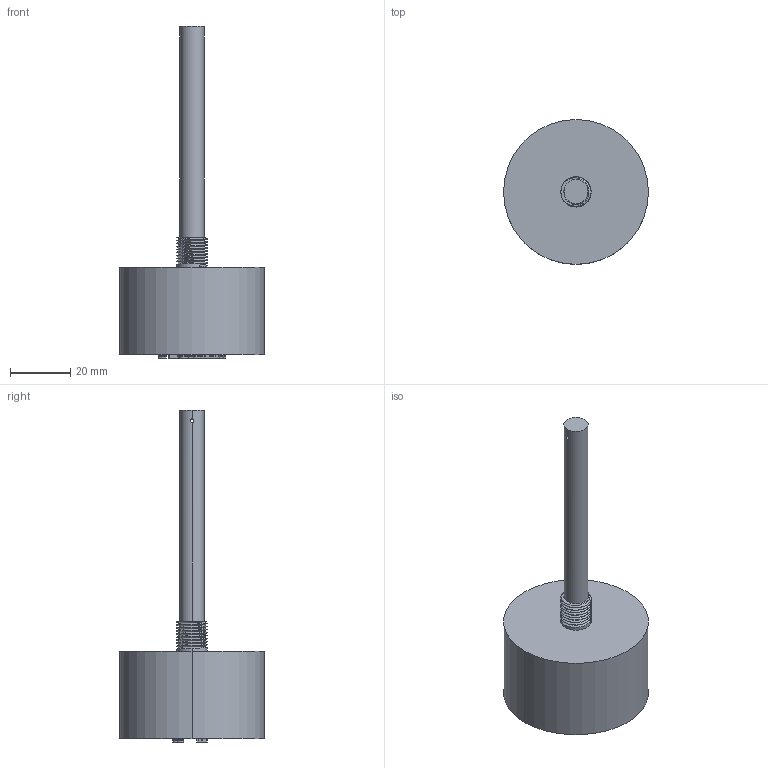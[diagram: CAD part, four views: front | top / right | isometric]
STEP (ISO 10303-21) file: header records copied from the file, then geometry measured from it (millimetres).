
FILE_DESCRIPTION((''),'2;1');
FILE_NAME('PRT0091','2026-01-26T11:20:28',('28740194'),(''),'CREO PARAMETRIC BY PTC INC, 2024063','CREO PARAMETRIC BY PTC INC, 2024063','');
FILE_SCHEMA(('CONFIG_CONTROL_DESIGN'));
Length unit declared in the file: millimetre
Products named in the file (1): PRT0091
Bounding box: 48 x 48 x 110 mm (x, y, z)
Volume: 56724.8 mm3; surface area: 10517.5 mm2
Topology: 1 solids, 1 shells, 429 faces, 1224 edges, 814 vertices
Faces by surface type: plane 398, cylinder 25, bspline 6
Entity records: 15381 total; most frequent: CARTESIAN_POINT 4245, ORIENTED_EDGE 2448, DIRECTION 2030, EDGE_CURVE 1224, VECTOR 1162, LINE 1162, VERTEX_POINT 814, EDGE_LOOP 448
